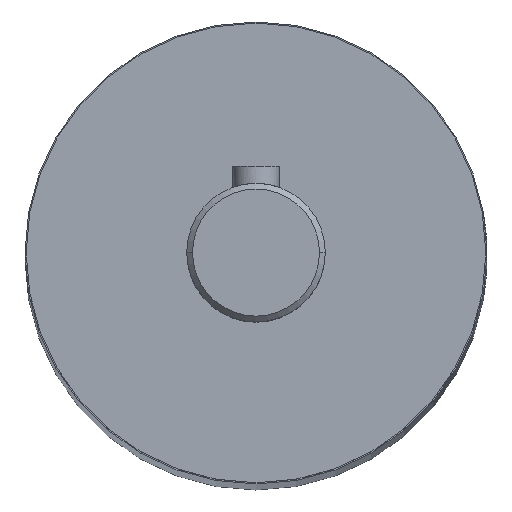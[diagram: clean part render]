
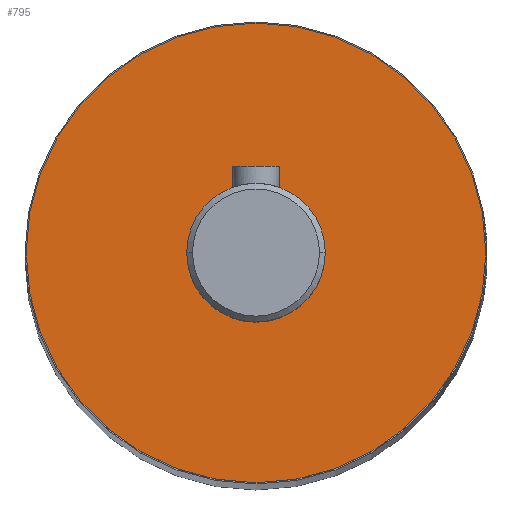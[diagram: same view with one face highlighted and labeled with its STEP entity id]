
A CAD part, top view. The second image highlights one B-rep face of the part: STEP entity #795.
In plain terms, the highlighted planar face has unit normal (0, 0, 1).
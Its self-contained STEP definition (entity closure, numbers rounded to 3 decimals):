
#32 = EDGE_CURVE ( 'NONE', #1634, #521, #605, .T. ) ;
#38 = CARTESIAN_POINT ( 'NONE',  ( -19.9, 0., 152.5 ) ) ;
#70 = DIRECTION ( 'NONE',  ( 1., 0., 0. ) ) ;
#125 = DIRECTION ( 'NONE',  ( 1., 0., 0. ) ) ;
#156 = CARTESIAN_POINT ( 'NONE',  ( 0., 0., 152.5 ) ) ;
#229 = DIRECTION ( 'NONE',  ( 0., 0., 1. ) ) ;
#232 = FACE_BOUND ( 'NONE', #610, .T. ) ;
#260 = DIRECTION ( 'NONE',  ( 0., 0., 1. ) ) ;
#312 = DIRECTION ( 'NONE',  ( 1., 0., 0. ) ) ;
#337 = CARTESIAN_POINT ( 'NONE',  ( 19.9, 0., 152.5 ) ) ;
#473 = AXIS2_PLACEMENT_3D ( 'NONE', #1882, #260, #1131 ) ;
#521 = VERTEX_POINT ( 'NONE', #1862 ) ;
#551 = ORIENTED_EDGE ( 'NONE', *, *, #957, .F. ) ;
#570 = VERTEX_POINT ( 'NONE', #337 ) ;
#601 = CIRCLE ( 'NONE', #473, 6. ) ;
#605 = CIRCLE ( 'NONE', #1778, 6. ) ;
#610 = EDGE_LOOP ( 'NONE', ( #551, #1098 ) ) ;
#713 = AXIS2_PLACEMENT_3D ( 'NONE', #1351, #1638, #312 ) ;
#795 = ADVANCED_FACE ( 'NONE', ( #232, #1418 ), #824, .T. ) ;
#824 = PLANE ( 'NONE',  #1238 ) ;
#861 = DIRECTION ( 'NONE',  ( 1., 0., 0. ) ) ;
#883 = ORIENTED_EDGE ( 'NONE', *, *, #1667, .T. ) ;
#957 = EDGE_CURVE ( 'NONE', #521, #1634, #601, .T. ) ;
#970 = EDGE_CURVE ( 'NONE', #1417, #570, #1109, .T. ) ;
#987 = CARTESIAN_POINT ( 'NONE',  ( 0., 0., 152.5 ) ) ;
#1098 = ORIENTED_EDGE ( 'NONE', *, *, #32, .F. ) ;
#1109 = CIRCLE ( 'NONE', #1747, 19.9 ) ;
#1128 = CIRCLE ( 'NONE', #713, 19.9 ) ;
#1131 = DIRECTION ( 'NONE',  ( 1., 0., 0. ) ) ;
#1138 = CARTESIAN_POINT ( 'NONE',  ( 0., 0., 152.5 ) ) ;
#1210 = ORIENTED_EDGE ( 'NONE', *, *, #970, .T. ) ;
#1238 = AXIS2_PLACEMENT_3D ( 'NONE', #1138, #1262, #70 ) ;
#1262 = DIRECTION ( 'NONE',  ( 0., 0., 1. ) ) ;
#1297 = CARTESIAN_POINT ( 'NONE',  ( 6., 0., 152.5 ) ) ;
#1351 = CARTESIAN_POINT ( 'NONE',  ( 0., 0., 152.5 ) ) ;
#1417 = VERTEX_POINT ( 'NONE', #38 ) ;
#1418 = FACE_OUTER_BOUND ( 'NONE', #1784, .T. ) ;
#1524 = DIRECTION ( 'NONE',  ( 0., 0., 1. ) ) ;
#1634 = VERTEX_POINT ( 'NONE', #1297 ) ;
#1638 = DIRECTION ( 'NONE',  ( 0., 0., 1. ) ) ;
#1667 = EDGE_CURVE ( 'NONE', #570, #1417, #1128, .T. ) ;
#1747 = AXIS2_PLACEMENT_3D ( 'NONE', #987, #229, #861 ) ;
#1778 = AXIS2_PLACEMENT_3D ( 'NONE', #156, #1524, #125 ) ;
#1784 = EDGE_LOOP ( 'NONE', ( #1210, #883 ) ) ;
#1862 = CARTESIAN_POINT ( 'NONE',  ( -6., 0., 152.5 ) ) ;
#1882 = CARTESIAN_POINT ( 'NONE',  ( 0., 0., 152.5 ) ) ;
